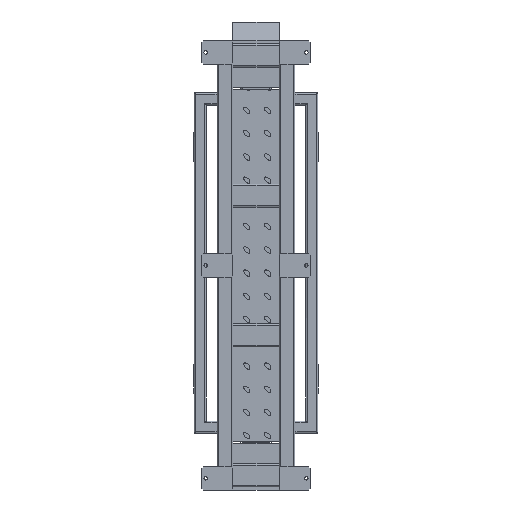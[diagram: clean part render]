
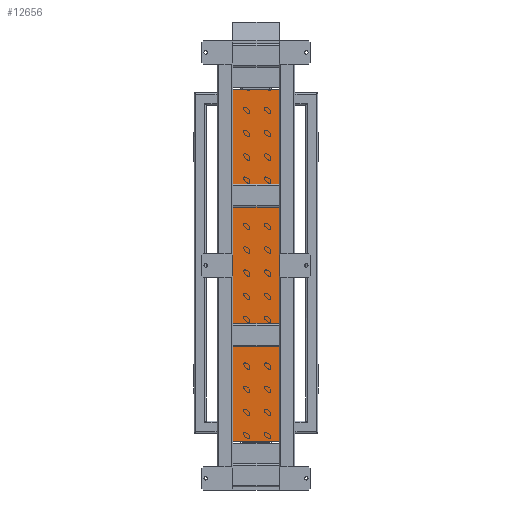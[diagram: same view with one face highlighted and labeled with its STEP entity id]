
A CAD part, front view. The second image highlights one B-rep face of the part: STEP entity #12656.
In plain terms, the highlighted planar face has unit normal (0, -1, 0) by its records, which use the part's own axes.
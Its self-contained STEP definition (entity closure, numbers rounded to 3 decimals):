
#187 = ORIENTED_EDGE ( 'NONE', *, *, #14742, .F. ) ;
#1710 = DIRECTION ( 'NONE',  ( 0., 1., 0. ) ) ;
#2231 = VERTEX_POINT ( 'NONE', #15666 ) ;
#2734 = CARTESIAN_POINT ( 'NONE',  ( 290.89, -3.774, 1765. ) ) ;
#3758 = ORIENTED_EDGE ( 'NONE', *, *, #22278, .F. ) ;
#3880 = CARTESIAN_POINT ( 'NONE',  ( -194.11, -3.774, 1765. ) ) ;
#4526 = ORIENTED_EDGE ( 'NONE', *, *, #19333, .F. ) ;
#5210 = DIRECTION ( 'NONE',  ( 0., 0., -1. ) ) ;
#5498 = VERTEX_POINT ( 'NONE', #24823 ) ;
#5714 = VECTOR ( 'NONE', #5210, 1000. ) ;
#6373 = DIRECTION ( 'NONE',  ( 0., 0., 1. ) ) ;
#7652 = LINE ( 'NONE', #2734, #5714 ) ;
#7811 = DIRECTION ( 'NONE',  ( -1., 0., 0. ) ) ;
#7823 = CARTESIAN_POINT ( 'NONE',  ( -194.11, -3.774, 4035. ) ) ;
#8805 = ORIENTED_EDGE ( 'NONE', *, *, #14774, .F. ) ;
#8897 = CARTESIAN_POINT ( 'NONE',  ( 48.39, -3.774, 3075. ) ) ;
#10316 = DIRECTION ( 'NONE',  ( 1., 0., 0. ) ) ;
#10621 = AXIS2_PLACEMENT_3D ( 'NONE', #8897, #1710, #19149 ) ;
#11965 = VECTOR ( 'NONE', #6373, 1000. ) ;
#12656 = ADVANCED_FACE ( 'NONE', ( #26085 ), #21342, .F. ) ;
#14733 = VECTOR ( 'NONE', #10316, 1000. ) ;
#14742 = EDGE_CURVE ( 'NONE', #2231, #21439, #7652, .T. ) ;
#14774 = EDGE_CURVE ( 'NONE', #21439, #5498, #23927, .T. ) ;
#15666 = CARTESIAN_POINT ( 'NONE',  ( 290.89, -3.774, 4035. ) ) ;
#17219 = CARTESIAN_POINT ( 'NONE',  ( -194.11, -3.774, 4035. ) ) ;
#19149 = DIRECTION ( 'NONE',  ( 0., 0., 1. ) ) ;
#19333 = EDGE_CURVE ( 'NONE', #31617, #2231, #25596, .T. ) ;
#20386 = CARTESIAN_POINT ( 'NONE',  ( 290.89, -3.774, 1765. ) ) ;
#21342 = PLANE ( 'NONE',  #10621 ) ;
#21439 = VERTEX_POINT ( 'NONE', #20386 ) ;
#22278 = EDGE_CURVE ( 'NONE', #5498, #31617, #25168, .T. ) ;
#22645 = CARTESIAN_POINT ( 'NONE',  ( 290.89, -3.774, 1765. ) ) ;
#23927 = LINE ( 'NONE', #22645, #30528 ) ;
#24823 = CARTESIAN_POINT ( 'NONE',  ( -194.11, -3.774, 1765. ) ) ;
#25168 = LINE ( 'NONE', #3880, #11965 ) ;
#25596 = LINE ( 'NONE', #7823, #14733 ) ;
#26085 = FACE_OUTER_BOUND ( 'NONE', #30022, .T. ) ;
#30022 = EDGE_LOOP ( 'NONE', ( #187, #4526, #3758, #8805 ) ) ;
#30528 = VECTOR ( 'NONE', #7811, 1000. ) ;
#31617 = VERTEX_POINT ( 'NONE', #17219 ) ;
